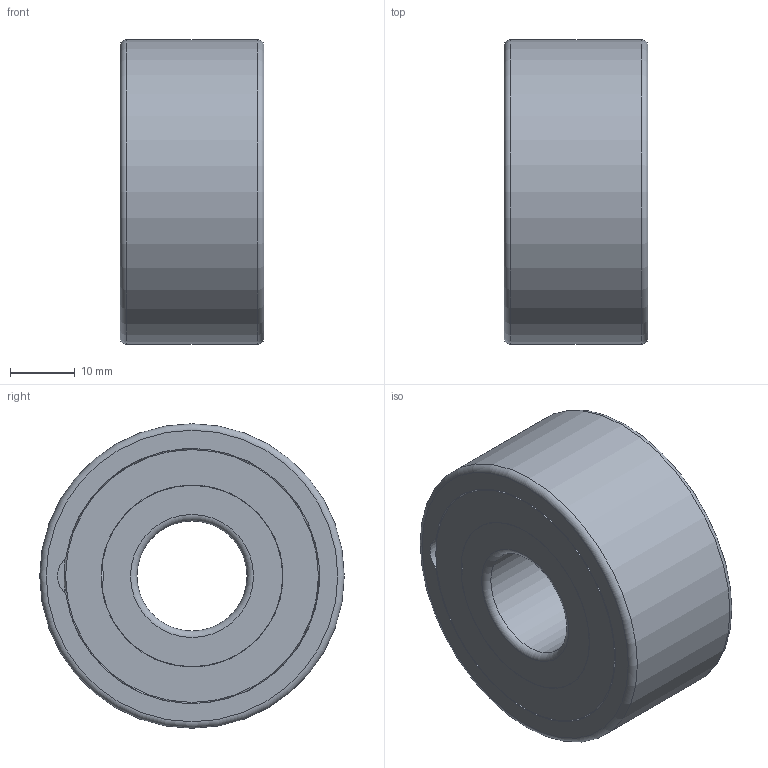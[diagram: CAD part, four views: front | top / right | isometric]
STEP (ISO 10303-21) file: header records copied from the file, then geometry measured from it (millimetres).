
FILE_DESCRIPTION(/* description */ (''),/* implementation_level */ '2;1');
FILE_NAME(/* name */ '3303E-2RS.stp',/* time_stamp */ '2024-11-07T07:49:03+01:00',/* author */ ('OUPIONTEKM'),/* organization */ (''),/* preprocessor_version */ 'ST-DEVELOPER v20',/* originating_system */ 'Autodesk Inventor 2025',/* authorisation */ '');
FILE_SCHEMA (('AUTOMOTIVE_DESIGN { 1 0 10303 214 3 1 1 }'));
Length unit declared in the file: millimetre
Products named in the file (6): 3303E; 3303E-02; 3303E-cage; 3303E-ball; 3303E-01; RS
Assembly tree (33 placements, depth 2):
  3303E
    3303E-02
    3303E-cage  x2
    3303E-ball  x28
    3303E-01
    RS
Bounding box: 22.2 x 47 x 47 mm (x, y, z)
Volume: 26938.2 mm3; surface area: 21101.6 mm2
Topology: 34 solids, 34 shells, 395 faces, 1161 edges, 774 vertices
Faces by surface type: bspline 168, sphere 84, cylinder 70, plane 65, torus 8
Full cylindrical faces by diameter (mm): 17 x1, 25.256 x1, 28 x1, 28.114 x2, 36.686 x1, 39.023 x1, 39.401 x2, 47 x1
Entity records: 10291 total; most frequent: CARTESIAN_POINT 4965, ORIENTED_EDGE 1148, DIRECTION 934, EDGE_CURVE 574, AXIS2_PLACEMENT_3D 390, VERTEX_POINT 384, CIRCLE 221, EDGE_LOOP 208
